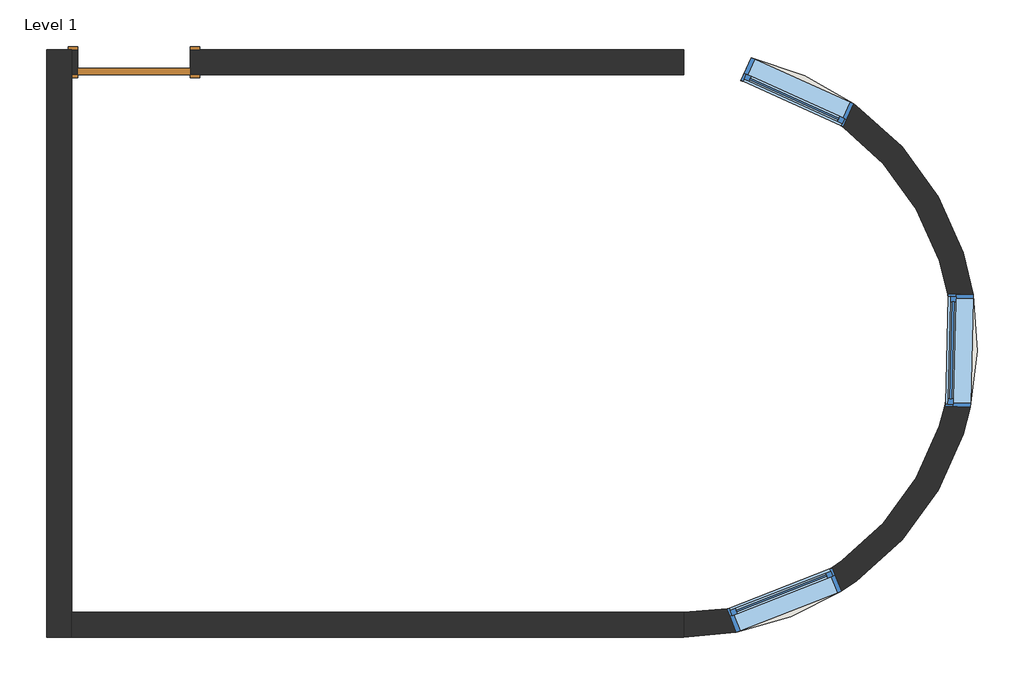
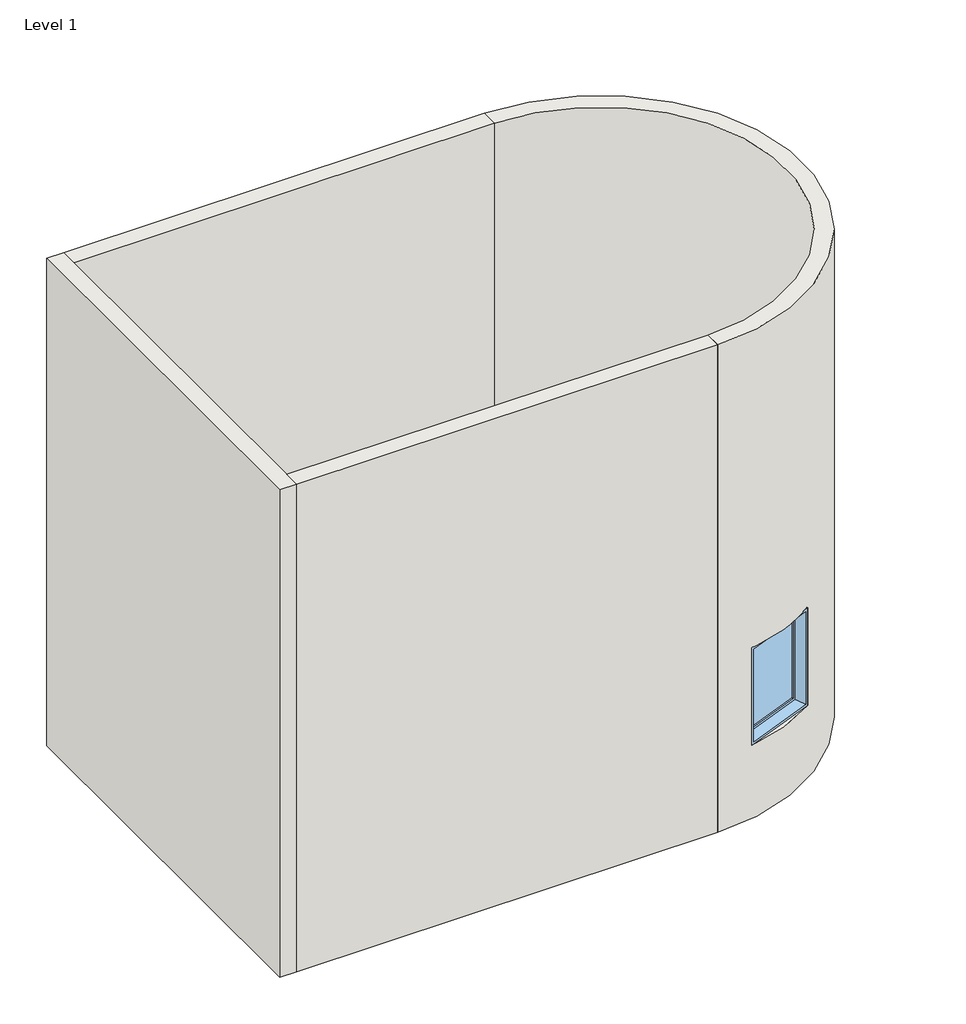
# One storey: 4 walls, 3 windows, 1 door.
"""IFC4 building model written with IfcOpenShell, lengths in millimetres."""

import ifcopenshell
import ifcopenshell.guid

model = None  # the IFC model being written
_history = None  # IfcOwnerHistory: only IFC2X3 demands one
_inside = {}  # id of a spatial element -> (the spatial element, [elements in it])
_under = {}  # id of a project, library or spatial element -> (it, [spatial elements below it])
_declared = {}  # id of a project -> (the project, [libraries it declares])
_typed = {}  # id of a type object -> (the type object, [elements of that type])
_made_of = {}  # id of a material, layer set ... -> (it, [elements and type objects made of it])


def new_model(schema):
    """Start an empty IFC model of exactly this schema.

    Asked for "IFC4X3", IfcOpenShell would pick the latest addendum, in which some entities
    have other attributes; the version numbers below select the first issue.
    IFC2X3 requires an IfcOwnerHistory on every rooted entity: one is made here for all.
    """
    global model, _history
    if schema == "IFC4X3":
        model = ifcopenshell.file(schema_version=(4, 3, 0, 0))
    else:
        model = ifcopenshell.file(schema=schema)
    _inside.clear()
    _under.clear()
    _declared.clear()
    _typed.clear()
    _made_of.clear()
    _history = None
    if model.schema == "IFC2X3":
        org = make("IfcOrganization", Name="unknown")
        user = make(
            "IfcPersonAndOrganization",
            ThePerson=make("IfcPerson", FamilyName="unknown"),
            TheOrganization=org,
        )
        app = make(
            "IfcApplication",
            ApplicationDeveloper=org,
            Version="unknown",
            ApplicationFullName="unknown",
            ApplicationIdentifier="unknown",
        )
        _history = make(
            "IfcOwnerHistory",
            OwningUser=user,
            OwningApplication=app,
            ChangeAction="ADDED",
            CreationDate=0,
        )
    return model


def make(cls, **values):
    """One entity of the class cls with the attributes given. An attribute that is None is left unset."""
    return model.create_entity(
        cls, **{name: value for name, value in values.items() if value is not None}
    )


def rooted(cls, **values):
    """An entity with a GlobalId (a new one), such as an element, a storey or a relation."""
    return make(cls, GlobalId=ifcopenshell.guid.new(), OwnerHistory=_history, **values)


def si_unit(unit_type, name, prefix=None):
    """IfcSIUnit, for example si_unit("LENGTHUNIT", "METRE", prefix="MILLI")."""
    return make("IfcSIUnit", UnitType=unit_type, Prefix=prefix, Name=name)


def assignment(units):
    """IfcUnitAssignment: the units of a project."""
    return None if units is None else make("IfcUnitAssignment", Units=units)


def point(xyz):
    """IfcCartesianPoint."""
    return None if xyz is None else make("IfcCartesianPoint", Coordinates=xyz)


def direction(xyz):
    """IfcDirection."""
    return None if xyz is None else make("IfcDirection", DirectionRatios=xyz)


def frame(location, z_axis=None, x_axis=None):
    """IfcAxis2Placement3D, a coordinate frame: its origin and axes. An axis left out is left unset."""
    return make(
        "IfcAxis2Placement3D",
        Location=point(location),
        Axis=direction(z_axis),
        RefDirection=direction(x_axis),
    )


def origin():
    """The frame at (0, 0, 0) with its axes left unset."""
    return frame((0.0, 0.0, 0.0))


def origin_with_axes():
    """The frame at (0, 0, 0) with the z axis (0, 0, 1) and the x axis (1, 0, 0) written out."""
    return frame((0.0, 0.0, 0.0), z_axis=(0.0, 0.0, 1.0), x_axis=(1.0, 0.0, 0.0))


def place(relative_to, where):
    """IfcLocalPlacement: puts the frame where relative to a parent placement (None: the world)."""
    return make(
        "IfcLocalPlacement", PlacementRelTo=relative_to, RelativePlacement=where
    )


def context(
    kind, dimensions, precision=None, world=None, true_north=None, identifier=None
):
    """IfcGeometricRepresentationContext, for example the 3D "Model" context."""
    return make(
        "IfcGeometricRepresentationContext",
        ContextIdentifier=identifier,
        ContextType=kind,
        CoordinateSpaceDimension=dimensions,
        Precision=precision,
        WorldCoordinateSystem=world,
        TrueNorth=true_north,
    )


def project(units=None, contexts=None):
    """IfcProject with its units and contexts."""
    return rooted(
        "IfcProject",
        Name="project",
        RepresentationContexts=contexts,
        UnitsInContext=assignment(units),
    )


def spatial(cls, under=None, at=None, **own):
    """A site, building, storey or space (cls), placed at a placement, below another one or the project."""
    s = rooted(cls, ObjectPlacement=at, **own)
    if under is not None:
        _under.setdefault(under.id(), (under, []))[1].append(s)
    return s


def polyline(points):
    """IfcPolyline through the points."""
    return make("IfcPolyline", Points=[point(p) for p in points])


def circle_curve(where, radius):
    """IfcCircle in the frame where."""
    return make("IfcCircle", Position=where, Radius=radius)


def outline(outer, holes=None, kind="AREA"):
    """IfcArbitraryClosedProfileDef: a profile drawn as a closed curve; with holes, ...WithVoids."""
    if holes is None:
        return make("IfcArbitraryClosedProfileDef", ProfileType=kind, OuterCurve=outer)
    return make(
        "IfcArbitraryProfileDefWithVoids",
        ProfileType=kind,
        OuterCurve=outer,
        InnerCurves=holes,
    )


def extrude(swept, where, along, depth):
    """IfcExtrudedAreaSolid: the profile swept, set in the frame where, extruded along a direction by depth."""
    return make(
        "IfcExtrudedAreaSolid",
        SweptArea=swept,
        Position=where,
        ExtrudedDirection=direction(along),
        Depth=depth,
    )


def faces_of(points, faces, orient=None, outer=None):
    """IfcFace entities. A face is a list of loops; a loop is a list of indices into points, from 0.

    orient and outer hold one flag for each loop. By default every Orientation is true, the
    first loop of a face is its IfcFaceOuterBound and the others are IfcFaceBound.
    """
    made = []
    for i, loops in enumerate(faces):
        bounds = []
        for j, loop in enumerate(loops):
            is_outer = j == 0 if outer is None else outer[i][j]
            bounds.append(
                make(
                    "IfcFaceOuterBound" if is_outer else "IfcFaceBound",
                    Bound=make("IfcPolyLoop", Polygon=[points[k] for k in loop]),
                    Orientation=True if orient is None else orient[i][j],
                )
            )
        made.append(make("IfcFace", Bounds=bounds))
    return made


def faceted_brep(points, faces, orient=None, outer=None, voids=None):
    """IfcFacetedBrep: a solid bounded by flat faces; with voids (closed shells), ...WithVoids."""
    shared = [point(p) for p in points]
    hull = make("IfcClosedShell", CfsFaces=faces_of(shared, faces, orient, outer))
    if voids is None:
        return make("IfcFacetedBrep", Outer=hull)
    return make(
        "IfcFacetedBrepWithVoids",
        Outer=hull,
        Voids=[
            make(cls, CfsFaces=faces_of(shared, fs, o, b)) for cls, fs, o, b in voids
        ],
    )


def shape(context_of_items, identifier, shape_type, items):
    """IfcShapeRepresentation: the items that make up one representation, for example the "Body"."""
    return make(
        "IfcShapeRepresentation",
        ContextOfItems=context_of_items,
        RepresentationIdentifier=identifier,
        RepresentationType=shape_type,
        Items=items,
    )


def source(mapping_origin, context_of_items, identifier, shape_type, items):
    """IfcRepresentationMap: a shape defined once, which mapped items show again and again."""
    return make(
        "IfcRepresentationMap",
        MappingOrigin=mapping_origin,
        MappedRepresentation=shape(context_of_items, identifier, shape_type, items),
    )


def transform(
    local_origin,
    x_axis=None,
    y_axis=None,
    z_axis=None,
    scale=None,
    scale2=None,
    scale3=None,
    uniform=True,
):
    """IfcCartesianTransformationOperator3D, or its non-uniform kind. x_axis, y_axis, z_axis: its Axis1, 2, 3."""
    if uniform:
        return make(
            "IfcCartesianTransformationOperator3D",
            Axis1=direction(x_axis),
            Axis2=direction(y_axis),
            LocalOrigin=point(local_origin),
            Scale=scale,
            Axis3=direction(z_axis),
        )
    return make(
        "IfcCartesianTransformationOperator3DnonUniform",
        Axis1=direction(x_axis),
        Axis2=direction(y_axis),
        LocalOrigin=point(local_origin),
        Scale=scale,
        Axis3=direction(z_axis),
        Scale2=scale2,
        Scale3=scale3,
    )


def mapped(mapping_source, mapping_target):
    """IfcMappedItem: shows the shape of a source again, moved by a transform."""
    return make(
        "IfcMappedItem", MappingSource=mapping_source, MappingTarget=mapping_target
    )


def made_of(thing, what):
    """Note that an element or type object is made of a material, layer set ...; save() writes the relation."""
    if what is not None:
        _made_of.setdefault(what.id(), (what, []))[1].append(thing)
    return thing


def element(
    cls,
    number,
    at=None,
    inside=None,
    cuts=None,
    type_object=None,
    material=None,
    context=None,
    identifier="Body",
    shape_type=None,
    held_by="IfcProductDefinitionShape",
    body=None,
    shapes=None,
    **own,
):
    """One element of the class cls, such as IfcWall. Its Tag is "e" and its number.

    at: its placement. inside: the storey or other place that contains it. cuts: it is an
    opening in that element (IfcRelVoidsElement). A single representation is given by context,
    identifier, shape_type and body (its items); several are given by shapes. held_by: the class
    of the entity that holds the representations. save() writes the other relations.
    """
    e = rooted(cls, Tag="e%d" % number, ObjectPlacement=at, **own)
    if body is not None:
        shapes = [shape(context, identifier, shape_type, body)]
    if shapes is not None:
        e.Representation = make(held_by, Representations=shapes)
    if inside is not None:
        _inside.setdefault(inside.id(), (inside, []))[1].append(e)
    if cuts is not None:
        rooted(
            "IfcRelVoidsElement", RelatingBuildingElement=cuts, RelatedOpeningElement=e
        )
    if type_object is not None:
        _typed.setdefault(type_object.id(), (type_object, []))[1].append(e)
    return made_of(e, material)


def aggregate(whole, parts):
    """IfcRelAggregates: a whole, such as a stair, and the parts it consists of."""
    return rooted("IfcRelAggregates", RelatingObject=whole, RelatedObjects=parts)


def save(model, path):
    """Write the relations noted so far, then the file.

    IfcRelAggregates (storeys below a building ...), IfcRelContainedInSpatialStructure (elements
    in a storey), IfcRelDefinesByType, IfcRelAssociatesMaterial and IfcRelDeclares: one each for
    every whole, place, type object, material and project.
    """
    for whole, parts in _under.values():
        aggregate(whole, parts)
    for where, things in _inside.values():
        rooted(
            "IfcRelContainedInSpatialStructure",
            RelatedElements=things,
            RelatingStructure=where,
        )
    for kind, things in _typed.values():
        rooted("IfcRelDefinesByType", RelatedObjects=things, RelatingType=kind)
    for what, things in _made_of.values():
        rooted("IfcRelAssociatesMaterial", RelatedObjects=things, RelatingMaterial=what)
    for by, libraries in _declared.values():
        rooted("IfcRelDeclares", RelatingContext=by, RelatedDefinitions=libraries)
    model.write(path)


def plane_surface(at):
    """IfcPlane: the flat surface through the origin of the frame at, square to its z axis."""
    return make("IfcPlane", Position=at)


def cylinder_surface(at, radius):
    """IfcCylindricalSurface: all points at the distance radius from the z axis of the frame at."""
    return make("IfcCylindricalSurface", Position=at, Radius=radius)


def revolved_surface(curve, axis_point, axis_direction):
    """IfcSurfaceOfRevolution: the curve turned about the line through axis_point along axis_direction."""
    return make(
        "IfcSurfaceOfRevolution",
        SweptCurve=make("IfcArbitraryOpenProfileDef", ProfileType="CURVE", Curve=curve),
        AxisPosition=make("IfcAxis1Placement", Location=point(axis_point), Axis=direction(axis_direction)),
    )


def advanced_brep(points, edges, surfaces, faces):
    """IfcAdvancedBrep: a solid bounded by faces that lie on surfaces and meet in shared edges.

    An edge is (start, end): straight between two places in points (the first is 0);
    or (start, end, curve); or (start, end, curve, False) where it runs against its curve.
    A face is (place in surfaces, loops), or (place, loops, False) where it looks against
    its surface's normal. A loop lists edges by number (the first is 1), with a minus sign
    where the edge is run from its end to its start. The first loop is the outer one.
    """
    corners = [point(p) for p in points]
    vertices = [make("IfcVertexPoint", VertexGeometry=c) for c in corners]
    made = []
    for start, end, *more in edges:
        made.append(
            make(
                "IfcEdgeCurve",
                EdgeStart=vertices[start],
                EdgeEnd=vertices[end],
                EdgeGeometry=more[0] if more else make("IfcPolyline", Points=[corners[start], corners[end]]),
                SameSense=more[1] if len(more) > 1 else True,
            )
        )
    hull = []
    for where, loops, *sense in faces:
        bounds = []
        for j, loop in enumerate(loops):
            ring = [make("IfcOrientedEdge", EdgeElement=made[abs(k) - 1], Orientation=k > 0) for k in loop]
            bounds.append(
                make(
                    "IfcFaceOuterBound" if j == 0 else "IfcFaceBound",
                    Bound=make("IfcEdgeLoop", EdgeList=ring),
                    Orientation=True,
                )
            )
        hull.append(make("IfcAdvancedFace", Bounds=bounds, FaceSurface=surfaces[where], SameSense=sense[0] if sense else True))
    return make("IfcAdvancedBrep", Outer=make("IfcClosedShell", CfsFaces=hull))


def door_54dd4da4(model_context):
    return source(origin(), model_context, "Body", "SweptSolid", [
        extrude(outline(polyline([(2209.8, -533.4), (0.0, -533.4), (0.0, -457.2), (2133.6, -457.2), (2133.6, 457.2), (0.0, 457.2), (0.0, 533.4), (2209.8, 533.4), (2209.8, -533.4)])), frame((0.0, 101.6, 0.0), z_axis=(0.0, 1.0, 0.0), x_axis=(0.0, 0.0, 1.0)), (0.0, 0.0, 1.0), 25.4),
        extrude(outline(polyline([(2209.8, 533.4), (2209.8, -533.4), (0.0, -533.4), (0.0, -457.2), (2133.6, -457.2), (2133.6, 457.2), (0.0, 457.2), (0.0, 533.4), (2209.8, 533.4)])), frame((0.0, -127.0, 0.0), z_axis=(0.0, 1.0, 0.0), x_axis=(0.0, 0.0, 1.0)), (0.0, 0.0, 1.0), 25.4),
        extrude(outline(polyline([(457.2, 50.8), (-457.2, 50.8), (-457.2, 101.6), (457.2, 101.6), (457.2, 50.8)])), origin_with_axes(), (0.0, 0.0, 1.0), 2133.6),
    ])


def window_e2841890(model_context):
    return source(origin(), model_context, "Body", "SweptSolid", [
        extrude(outline(polyline([(355.6, 53.975), (-431.8, 53.975), (-431.8, 66.675), (355.6, 66.675), (355.6, 53.975)])), frame((0.0, 0.0, 977.9), z_axis=(0.0, 0.0, 1.0), x_axis=(1.0, 0.0, 0.0)), (0.0, 0.0, 1.0), 1092.2),
        extrude(outline(polyline([(2114.55, -476.25), (933.45, -476.25), (933.45, 400.05), (2114.55, 400.05), (2114.55, -476.25)]), holes=[polyline([(2070.1, -431.8), (2070.1, 355.6), (977.9, 355.6), (977.9, -431.8), (2070.1, -431.8)])]), frame((0.0, 38.1, 0.0), z_axis=(0.0, 1.0, 0.0), x_axis=(0.0, 0.0, 1.0)), (0.0, 0.0, 1.0), 44.45),
        extrude(outline(polyline([(2133.6, -495.3), (914.4, -495.3), (914.4, 419.1), (2133.6, 419.1), (2133.6, -495.3)]), holes=[polyline([(2101.85, -463.55), (2101.85, 387.35), (946.15, 387.35), (946.15, -463.55), (2101.85, -463.55)])]), frame((0.0, -101.6, 0.0), z_axis=(0.0, 1.0, 0.0), x_axis=(0.0, 0.0, 1.0)), (0.0, 0.0, 1.0), 139.7),
        extrude(outline(polyline([(2133.6, 419.1), (2133.6, -495.3), (914.4, -495.3), (914.4, 419.1), (2133.6, 419.1)]), holes=[polyline([(2114.55, 400.05), (933.45, 400.05), (933.45, -476.25), (2114.55, -476.25), (2114.55, 400.05)])]), frame((0.0, 38.1, 0.0), z_axis=(0.0, 1.0, 0.0), x_axis=(0.0, 0.0, 1.0)), (0.0, 0.0, 1.0), 63.5),
    ])


model = new_model("IFC4")

# Units and contexts
model_context = context("Model", 3, world=origin())
ifc_project = project(units=[si_unit("LENGTHUNIT", "METRE", prefix="MILLI")], contexts=[model_context])

# Site, building, storey
site = spatial("IfcSite", under=ifc_project)
building = spatial("IfcBuilding", under=site)
storey = spatial("IfcBuildingStorey", under=building, Name="Level 1", Elevation=0.0)

# Door
placement = place(None, origin())
door_shape = door_54dd4da4(model_context)
element("IfcDoor", 1, ObjectType="Single-Flush : 36\" x 84\"", at=placement, inside=storey, context=model_context, shape_type="MappedRepresentation", body=[
    mapped(door_shape, transform((-7540.0024993, 10748.9354376, 0.0), x_axis=(-1.0, 0.0, 0.0), y_axis=(0.0, -1.0, 0.0), z_axis=(0.0, 0.0, 1.0))),
])

# Walls
element("IfcWall", 2, ObjectType="Generic - 8\"", at=placement, inside=storey, context=model_context, shape_type="Brep", body=[
    faceted_brep([(-8251.2024993, 10850.5354376, 0.0), (-8251.2024993, 6075.3354376, 0.0), (-8251.2024993, 6075.3354376, 6096.0), (-8251.2024993, 10850.5354376, 6096.0), (-8048.0024993, 10850.5354376, 0.0), (-8048.0024993, 10850.5354376, 6096.0), (-8048.0024993, 10647.3354376, 6096.0), (-8048.0024993, 6278.5354376, 6096.0), (-8048.0024993, 6075.3354376, 6096.0), (-8048.0024993, 6075.3354376, 0.0), (-8048.0024993, 6278.5354376, 0.0), (-8048.0024993, 10647.3354376, 0.0)], [[[0, 1, 2, 3]], [[4, 5, 6, 7, 8, 9, 10, 11]], [[1, 0, 4, 11, 10, 9]], [[3, 2, 8, 7, 6, 5]], [[2, 1, 9, 8]], [[0, 3, 5, 4]]]),
])
element("IfcWall", 3, ObjectType="Generic - 8\"", at=placement, inside=storey, context=model_context, shape_type="SweptSolid", body=[
    extrude(outline(polyline([(-3071.972478, 6075.3354376), (-8048.0024993, 6075.3354376), (-8048.0024993, 6278.5354376), (-3071.972478, 6278.5354376), (-3071.972478, 6075.3354376)])), origin_with_axes(), (0.0, 0.0, 1.0), 6096.0),
])
element("IfcWall", 4, ObjectType="Generic - 8\"", at=placement, inside=storey, context=model_context, shape_type="SweptSolid", body=[
    extrude(outline(polyline([(0.0, -3071.972478), (6096.0, -3071.972478), (6096.0, -8048.0024993), (0.0, -8048.0024993), (0.0, -7997.2024993), (2133.6, -7997.2024993), (2133.6, -7082.8024993), (0.0, -7082.8024993), (0.0, -3071.972478)])), frame((0.0, 10647.3354376, 0.0), z_axis=(0.0, 1.0, 0.0), x_axis=(0.0, 0.0, 1.0)), (0.0, 0.0, 1.0), 203.2),
])
element("IfcWall", 5, ObjectType="Generic - 8\"", at=placement, inside=storey, context=model_context, shape_type="AdvancedBrep", body=[
    advanced_brep(
    [(-3071.972478, 6075.3354376, 6096.0), (-3071.972478, 10850.5354376, 6096.0), (-3071.972478, 10647.3354376, 6096.0), (-3071.972478, 6278.5354376, 6096.0), (-3071.972478, 10850.5354376, 0.0), (-3071.972478, 6075.3354376, 0.0), (-3071.972478, 6278.5354376, 0.0), (-3071.972478, 10647.3354376, 0.0), (-2522.9441249, 10786.5536566, 2133.6), (-2522.9441249, 10786.5536566, 914.4), (-1689.7793305, 10409.7728379, 914.4), (-1689.7793305, 10409.7728379, 2133.6), (-1792.294049, 6447.2328607, 2133.6), (-1792.294049, 6447.2328607, 914.4), (-2643.8266283, 6114.0367826, 914.4), (-2643.8266283, 6114.0367826, 2133.6), (-717.5153503, 8859.3763462, 2133.6), (-717.5153503, 8859.3763462, 914.4), (-741.1638446, 7945.2821997, 914.4), (-741.1638446, 7945.2821997, 2133.6), (-2608.4034213, 10597.5799255, 914.4), (-2608.4034213, 10597.5799255, 2133.6), (-1775.2386269, 10220.7991068, 2133.6), (-1775.2386269, 10220.7991068, 914.4), (-1867.8677008, 6640.3726689, 914.4), (-1867.8677008, 6640.3726689, 2133.6), (-2719.4002801, 6307.1765908, 2133.6), (-2719.4002801, 6307.1765908, 914.4), (-924.8450197, 8864.740164, 2133.6), (-948.4935141, 7950.6460175, 2133.6), (-948.4935141, 7950.6460175, 914.4), (-924.8450197, 8864.740164, 914.4)],
    [
        (0, 1, circle_curve(frame((-3071.972478, 8462.9354376, 6096.0), z_axis=(0.0, 0.0, 1.0), x_axis=(1.0, 0.0, 0.0)), 2387.6)),
        (1, 2),
        (2, 3, circle_curve(frame((-3071.972478, 8462.9354376, 6096.0), z_axis=(0.0, 0.0, -1.0), x_axis=(1.0, 0.0, 0.0)), 2184.4)),
        (3, 0),
        (4, 5, circle_curve(frame((-3071.972478, 8462.9354376, 0.0), z_axis=(0.0, 0.0, -1.0), x_axis=(1.0, 0.0, 0.0)), 2387.6)),
        (5, 6),
        (6, 7, circle_curve(frame((-3071.972478, 8462.9354376, 0.0), z_axis=(0.0, 0.0, 1.0), x_axis=(1.0, 0.0, 0.0)), 2184.4)),
        (7, 4),
        (0, 5),
        (4, 1),
        (8, 9),
        (9, 10, circle_curve(frame((-3071.972478, 8462.9354376, 914.4), z_axis=(0.0, 0.0, -1.0), x_axis=(1.0, 0.0, 0.0)), 2387.6)),
        (10, 11),
        (11, 8, circle_curve(frame((-3071.972478, 8462.9354376, 2133.6), z_axis=(0.0, 0.0, 1.0), x_axis=(1.0, 0.0, 0.0)), 2387.6)),
        (12, 13),
        (13, 14, circle_curve(frame((-3071.972478, 8462.9354376, 914.4), z_axis=(0.0, 0.0, -1.0), x_axis=(1.0, 0.0, 0.0)), 2387.6)),
        (14, 15),
        (15, 12, circle_curve(frame((-3071.972478, 8462.9354376, 2133.6), z_axis=(0.0, 0.0, 1.0), x_axis=(1.0, 0.0, 0.0)), 2387.6)),
        (16, 17),
        (17, 18, circle_curve(frame((-3071.972478, 8462.9354376, 914.4), z_axis=(0.0, 0.0, -1.0), x_axis=(1.0, 0.0, 0.0)), 2387.6)),
        (18, 19),
        (19, 16, circle_curve(frame((-3071.972478, 8462.9354376, 2133.6), z_axis=(0.0, 0.0, 1.0), x_axis=(1.0, 0.0, 0.0)), 2387.6)),
        (7, 2),
        (6, 3),
        (20, 21),
        (21, 22, circle_curve(frame((-3071.972478, 8462.9354376, 2133.6), z_axis=(0.0, 0.0, -1.0), x_axis=(1.0, 0.0, 0.0)), 2184.4)),
        (22, 23),
        (23, 20, circle_curve(frame((-3071.972478, 8462.9354376, 914.4), z_axis=(0.0, 0.0, 1.0), x_axis=(1.0, 0.0, 0.0)), 2184.4)),
        (24, 25),
        (25, 26, circle_curve(frame((-3071.972478, 8462.9354376, 2133.6), z_axis=(0.0, 0.0, -1.0), x_axis=(1.0, 0.0, 0.0)), 2184.4)),
        (26, 27),
        (27, 24, circle_curve(frame((-3071.972478, 8462.9354376, 914.4), z_axis=(0.0, 0.0, 1.0), x_axis=(1.0, 0.0, 0.0)), 2184.4)),
        (28, 29, circle_curve(frame((-3071.972478, 8462.9354376, 2133.6), z_axis=(0.0, 0.0, -1.0), x_axis=(1.0, 0.0, 0.0)), 2184.4)),
        (29, 30),
        (30, 31, circle_curve(frame((-3071.972478, 8462.9354376, 914.4), z_axis=(0.0, 0.0, 1.0), x_axis=(1.0, 0.0, 0.0)), 2184.4)),
        (31, 28),
        (8, 21),
        (20, 9),
        (23, 10),
        (22, 11),
        (12, 25),
        (24, 13),
        (27, 14),
        (26, 15),
        (16, 28),
        (31, 17),
        (30, 18),
        (29, 19),
    ],
    [
        plane_surface(frame((-684.372478, 8462.9354376, 6096.0), z_axis=(0.0, 0.0, 1.0), x_axis=(0.0, 1.0, 0.0))),
        plane_surface(frame((-684.372478, 8462.9354376, 0.0), z_axis=(0.0, 0.0, -1.0), x_axis=(0.0, -1.0, 0.0))),
        cylinder_surface(frame((-3071.972478, 8462.9354376, 0.0), z_axis=(0.0, 0.0, 1.0), x_axis=(1.0, 0.0, 0.0)), 2387.6),
        plane_surface(frame((-3071.972478, 10850.5354376, 6096.0), z_axis=(-1.0, 0.0, 0.0), x_axis=(0.0, 0.0, -1.0))),
        revolved_surface(polyline([(-887.572478, 8462.9354376, 0.0), (-887.572478, 8462.9354376, 6096.0)]), (-3071.972478, 8462.9354376, 0.0), (0.0, 0.0, -1.0)),
        plane_surface(frame((-3071.972478, 6278.5354376, 6096.0), z_axis=(-1.0, 0.0, 0.0), x_axis=(0.0, 0.0, -1.0))),
        plane_surface(frame((-2522.9441249, 10786.5536566, 2133.6), z_axis=(0.9111600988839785, -0.4120525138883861, 0.0), x_axis=(-0.4120525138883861, -0.9111600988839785, 0.0))),
        plane_surface(frame((-2522.9441249, 10786.5536566, 914.4), z_axis=(0.0, 0.0, 1.0000000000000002), x_axis=(-0.4120525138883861, -0.9111600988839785, 0.0))),
        plane_surface(frame((-1689.7793305, 10409.7728379, 914.4), z_axis=(-0.9111600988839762, 0.41205251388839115, 0.0), x_axis=(-0.41205251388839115, -0.9111600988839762, 0.0))),
        plane_surface(frame((-1689.7793305, 10409.7728379, 2133.6), z_axis=(0.0, 0.0, -1.0), x_axis=(-0.41205251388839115, -0.9111600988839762, 0.0))),
        plane_surface(frame((-2347.6208458, 7866.4538261, 2133.6), z_axis=(-0.9312473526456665, -0.36438766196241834, 0.0), x_axis=(0.36438766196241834, -0.9312473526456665, 0.0))),
        plane_surface(frame((-2347.6208458, 7866.4538261, 914.4), z_axis=(0.0, 0.0, 1.0), x_axis=(0.36438766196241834, -0.9312473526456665, 0.0))),
        plane_surface(frame((-3199.1534251, 7533.257748, 914.4), z_axis=(0.9312473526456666, 0.3643876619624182, 0.0), x_axis=(0.3643876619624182, -0.9312473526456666, 0.0))),
        plane_surface(frame((-3199.1534251, 7533.257748, 2133.6), z_axis=(0.0, 0.0, -1.0), x_axis=(0.3643876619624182, -0.9312473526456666, 0.0))),
        plane_surface(frame((-717.5153503, 8859.3763462, 2133.6), z_axis=(-0.025862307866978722, -0.9996655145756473, 0.0), x_axis=(-0.9996655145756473, 0.025862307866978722, 0.0))),
        plane_surface(frame((-717.5153503, 8859.3763462, 914.4), z_axis=(0.0, 0.0, 1.0000000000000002), x_axis=(-0.9996655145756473, 0.025862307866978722, 0.0))),
        plane_surface(frame((-741.1638446, 7945.2821997, 914.4), z_axis=(0.025862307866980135, 0.9996655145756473, 0.0), x_axis=(-0.9996655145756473, 0.025862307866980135, 0.0))),
        plane_surface(frame((-741.1638446, 7945.2821997, 2133.6), z_axis=(0.0, 0.0, -1.0000000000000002), x_axis=(-0.9996655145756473, 0.025862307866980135, 0.0))),
    ],
    [
        (0, [[1, 2, 3, 4]]),
        (1, [[5, 6, 7, 8]]),
        (2, [[-1, 9, -5, 10], [11, 12, 13, 14], [15, 16, 17, 18], [19, 20, 21, 22]]),
        (3, [[-2, -10, -8, 23]]),
        (4, [[-3, -23, -7, 24], [25, 26, 27, 28], [29, 30, 31, 32], [33, 34, 35, 36]]),
        (5, [[-4, -24, -6, -9]]),
        (6, [[-11, 37, -25, 38]]),
        (7, [[-12, -38, -28, 39]]),
        (8, [[-13, -39, -27, 40]]),
        (9, [[-14, -40, -26, -37]]),
        (10, [[41, -29, 42, -15]]),
        (11, [[-42, -32, 43, -16]]),
        (12, [[-43, -31, 44, -17]]),
        (13, [[-41, -18, -44, -30]]),
        (14, [[-19, 45, -36, 46]]),
        (15, [[-20, -46, -35, 47]]),
        (16, [[-21, -47, -34, 48]]),
        (17, [[-22, -48, -33, -45]]),
    ],
),
])

# Windows
window_shape = window_e2841890(model_context)
element("IfcWindow", 6, ObjectType="Fixed : 36\" x 48\"", at=placement, inside=storey, context=model_context, shape_type="MappedRepresentation", body=[
    mapped(window_shape, transform((-2182.9414629, 10521.2885819, 0.0), x_axis=(-0.9111600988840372, 0.4120525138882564, 0.0), y_axis=(-0.4120525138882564, -0.9111600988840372, 0.0), z_axis=(0.0, 0.0, 1.0))),
])
element("IfcWindow", 7, ObjectType="Fixed : 36\" x 48\"", at=placement, inside=storey, context=model_context, shape_type="MappedRepresentation", body=[
    mapped(window_shape, transform((-2219.6016009, 6389.1327226, 0.0), x_axis=(0.9312473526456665, 0.36438766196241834, 0.0), y_axis=(-0.36438766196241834, 0.9312473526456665, 0.0), z_axis=(0.0, 0.0, 1.0))),
])
element("IfcWindow", 8, ObjectType="Fixed : 36\" x 48\"", at=placement, inside=storey, context=model_context, shape_type="MappedRepresentation", body=[
    mapped(window_shape, transform((-829.9202598, 8443.0441395, 0.0), x_axis=(0.025862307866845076, 0.9996655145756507, 0.0), y_axis=(-0.9996655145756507, 0.025862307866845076, 0.0), z_axis=(0.0, 0.0, 1.0))),
])

save(model, "model.ifc")
